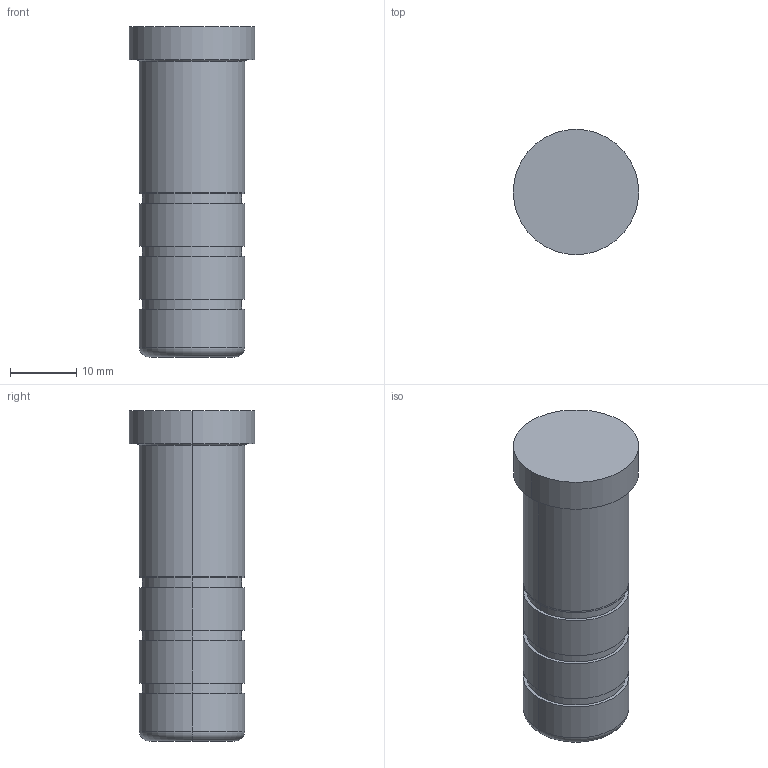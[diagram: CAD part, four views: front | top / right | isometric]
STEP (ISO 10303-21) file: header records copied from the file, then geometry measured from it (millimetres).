
FILE_DESCRIPTION(/* description */ (''),/* implementation_level */ '2;1');
FILE_NAME(/* name */ '3d_sgoh16-50_05230_r00.stp',/* time_stamp */ '2011-01-10T14:11:09+09:00',/* author */ ('MISUMI'),/* organization */ (''),/* preprocessor_version */ 'ST-DEVELOPER v11',/* originating_system */ 'UGS - NX 5.0',/* authorisation */ '');
FILE_SCHEMA (('CONFIG_CONTROL_DESIGN'));
Length unit declared in the file: millimetre
Products named in the file (1): 3d_sgoh16-50_05230_r00
Bounding box: 19 x 19 x 50 mm (x, y, z)
Volume: 10333.3 mm3; surface area: 3220.7 mm2
Topology: 1 solids, 1 shells, 31 faces, 60 edges, 38 vertices
Faces by surface type: cylinder 18, plane 9, torus 4
Entity records: 894 total; most frequent: DIRECTION 166, CARTESIAN_POINT 130, ORIENTED_EDGE 120, AXIS2_PLACEMENT_3D 74, EDGE_CURVE 60, CIRCLE 42, EDGE_LOOP 38, VERTEX_POINT 38
